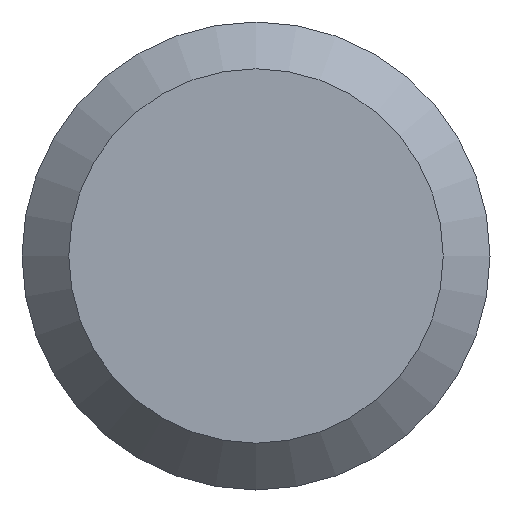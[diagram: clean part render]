
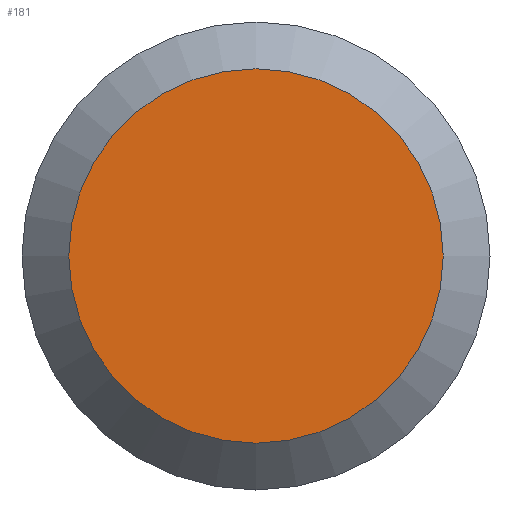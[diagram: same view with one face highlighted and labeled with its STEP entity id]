
A CAD part, left-side view. The second image highlights one B-rep face of the part: STEP entity #181.
In plain terms, the highlighted planar face has unit normal (-1, 0, 0).
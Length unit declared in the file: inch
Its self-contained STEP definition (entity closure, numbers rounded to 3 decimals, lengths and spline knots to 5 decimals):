
#10 = DIRECTION ( 'NONE',  ( 0., 0., -1. ) ) ;
#30 = VERTEX_POINT ( 'NONE', #145 ) ;
#38 = ORIENTED_EDGE ( 'NONE', *, *, #110, .T. ) ;
#40 = CARTESIAN_POINT ( 'NONE',  ( 0., 0.158, 0. ) ) ;
#64 = CIRCLE ( 'NONE', #79, 0.1264 ) ;
#79 = AXIS2_PLACEMENT_3D ( 'NONE', #146, #194, #10 ) ;
#110 = EDGE_CURVE ( 'NONE', #30, #30, #64, .T. ) ;
#127 = EDGE_LOOP ( 'NONE', ( #38 ) ) ;
#145 = CARTESIAN_POINT ( 'NONE',  ( 0., 0., -0.1264 ) ) ;
#146 = CARTESIAN_POINT ( 'NONE',  ( 0., 0., 0. ) ) ;
#153 = AXIS2_PLACEMENT_3D ( 'NONE', #40, #171, #161 ) ;
#161 = DIRECTION ( 'NONE',  ( 0., 0., -1. ) ) ;
#171 = DIRECTION ( 'NONE',  ( 1., 0., 0. ) ) ;
#181 = ADVANCED_FACE ( 'NONE', ( #249 ), #195, .F. ) ;
#194 = DIRECTION ( 'NONE',  ( -1., 0., 0. ) ) ;
#195 = PLANE ( 'NONE',  #153 ) ;
#249 = FACE_OUTER_BOUND ( 'NONE', #127, .T. ) ;
